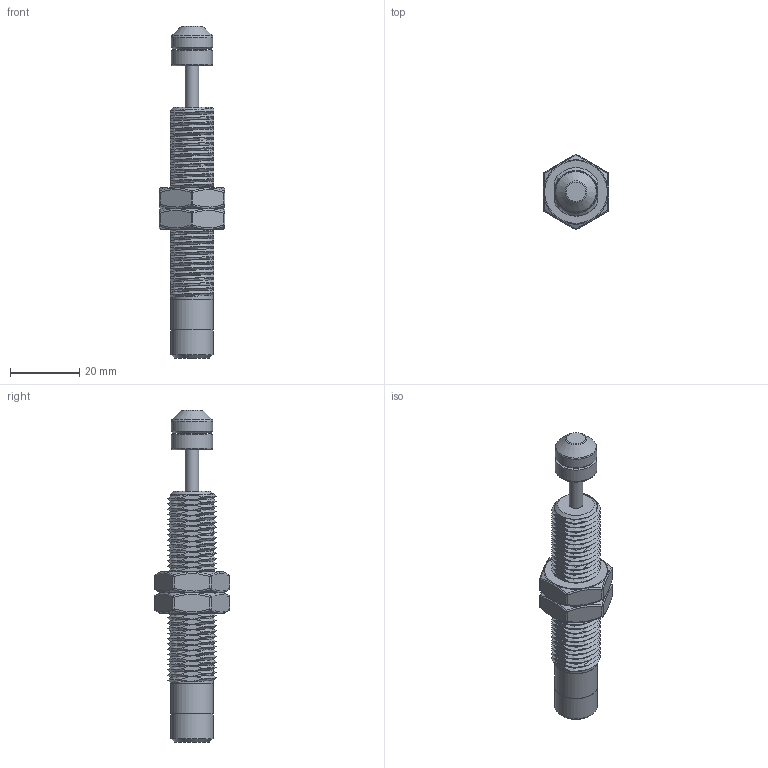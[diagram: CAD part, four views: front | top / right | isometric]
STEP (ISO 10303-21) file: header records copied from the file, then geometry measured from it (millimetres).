
FILE_DESCRIPTION(('STEP AP203'),'1');
FILE_NAME('C:/Documents and Settings/User/官帕 拳搁/KMA14-12B.stp',' ',(' '),(' '),'XStep 1.0',' ',' ');
FILE_SCHEMA(('CONFIG_CONTROL_DESIGN'));
Length unit declared in the file: metre
Products named in the file (1): Assembly161
Bounding box: 19 x 21.78 x 96 mm (x, y, z)
Volume: 13940.5 mm3; surface area: 11816.6 mm2
Topology: 9 solids, 9 shells, 212 faces, 500 edges, 308 vertices
Faces by surface type: plane 104, cone 28, bspline 27, sphere 24, cylinder 22, torus 7
Full cylindrical faces by diameter (mm): 4 x1, 6.5 x1, 12 x3, 12.2 x2, 12.376 x1, 12.5 x2
Entity records: 14683 total; most frequent: CARTESIAN_POINT 10583, ORIENTED_EDGE 944, DIRECTION 671, EDGE_CURVE 472, AXIS2_PLACEMENT_3D 322, VERTEX_POINT 301, B_SPLINE_CURVE_WITH_KNOTS 243, EDGE_LOOP 239
